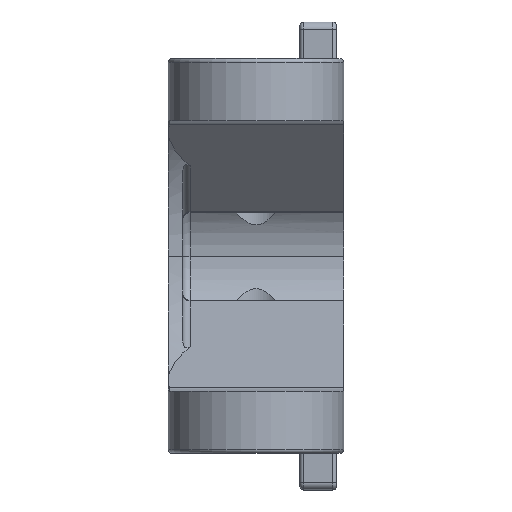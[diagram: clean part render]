
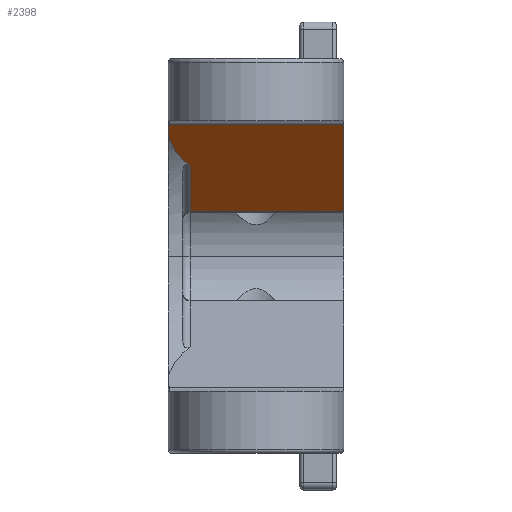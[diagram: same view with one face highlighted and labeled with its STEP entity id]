
A CAD part, top view. The second image highlights one B-rep face of the part: STEP entity #2398.
In plain terms, the highlighted planar face has unit normal (0, -0.906, 0.423).
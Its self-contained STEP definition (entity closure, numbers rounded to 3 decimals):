
#1235=CARTESIAN_POINT('Vertex',(21.,17.938,43.601)) ;
#1238=CARTESIAN_POINT('Line Origine',(21.,12.016,30.901)) ;
#1242=CARTESIAN_POINT('Vertex',(21.,6.094,18.201)) ;
#1852=CARTESIAN_POINT('Vertex',(-3.,17.,41.59)) ;
#2296=CARTESIAN_POINT('Line Origine',(8.958,17.938,43.601)) ;
#2300=CARTESIAN_POINT('Vertex',(-2.869,17.938,43.601)) ;
#2341=CARTESIAN_POINT('Axis2P3D Location',(0.,17.,41.59)) ;
#2347=CARTESIAN_POINT('Control Point',(-3.,17.,41.59)) ;
#2348=CARTESIAN_POINT('Control Point',(-3.,17.187,41.991)) ;
#2349=CARTESIAN_POINT('Control Point',(-2.987,17.375,42.393)) ;
#2350=CARTESIAN_POINT('Control Point',(-2.961,17.562,42.796)) ;
#2351=CARTESIAN_POINT('Control Point',(-2.921,17.75,43.198)) ;
#2352=CARTESIAN_POINT('Control Point',(-2.869,17.938,43.601)) ;
#2355=CARTESIAN_POINT('Control Point',(-1.,13.243,33.533)) ;
#2356=CARTESIAN_POINT('Control Point',(-1.607,13.842,34.817)) ;
#2357=CARTESIAN_POINT('Control Point',(-2.108,14.434,36.087)) ;
#2358=CARTESIAN_POINT('Control Point',(-2.492,15.017,37.337)) ;
#2359=CARTESIAN_POINT('Control Point',(-2.832,15.762,38.934)) ;
#2360=CARTESIAN_POINT('Control Point',(-2.969,16.502,40.522)) ;
#2361=CARTESIAN_POINT('Control Point',(-2.99,16.668,40.878)) ;
#2362=CARTESIAN_POINT('Control Point',(-3.,16.834,41.234)) ;
#2363=CARTESIAN_POINT('Control Point',(-3.,17.,41.59)) ;
#2364=CARTESIAN_POINT('Vertex',(-1.,13.243,33.533)) ;
#2368=CARTESIAN_POINT('Control Point',(-1.,13.243,33.533)) ;
#2369=CARTESIAN_POINT('Control Point',(-0.819,13.065,33.151)) ;
#2370=CARTESIAN_POINT('Control Point',(-0.629,12.886,32.766)) ;
#2371=CARTESIAN_POINT('Control Point',(-0.429,12.705,32.379)) ;
#2372=CARTESIAN_POINT('Control Point',(-0.219,12.523,31.989)) ;
#2373=CARTESIAN_POINT('Control Point',(0.,12.341,31.598)) ;
#2374=CARTESIAN_POINT('Vertex',(0.,12.341,31.598)) ;
#2377=CARTESIAN_POINT('Line Origine',(0.,9.217,24.899)) ;
#2381=CARTESIAN_POINT('Vertex',(0.,6.094,18.201)) ;
#2384=CARTESIAN_POINT('Line Origine',(10.5,6.094,18.201)) ;
#1239=DIRECTION('Vector Direction',(0.,-0.423,-0.906)) ;
#2297=DIRECTION('Vector Direction',(1.,0.,0.)) ;
#2342=DIRECTION('Axis2P3D Direction',(0.,-0.906,0.423)) ;
#2343=DIRECTION('Axis2P3D XDirection',(-0.,-0.423,-0.906)) ;
#2378=DIRECTION('Vector Direction',(0.,-0.423,-0.906)) ;
#2385=DIRECTION('Vector Direction',(1.,0.,0.)) ;
#2344=AXIS2_PLACEMENT_3D('Plane Axis2P3D',#2341,#2342,#2343) ;
#2390=ORIENTED_EDGE('',*,*,#2353,.F.) ;
#2391=ORIENTED_EDGE('',*,*,#2366,.F.) ;
#2392=ORIENTED_EDGE('',*,*,#2376,.T.) ;
#2393=ORIENTED_EDGE('',*,*,#2383,.F.) ;
#2394=ORIENTED_EDGE('',*,*,#2388,.T.) ;
#2395=ORIENTED_EDGE('',*,*,#1244,.F.) ;
#2396=ORIENTED_EDGE('',*,*,#2302,.T.) ;
#1240=VECTOR('Line Direction',#1239,1.) ;
#2298=VECTOR('Line Direction',#2297,1.) ;
#2379=VECTOR('Line Direction',#2378,1.) ;
#2386=VECTOR('Line Direction',#2385,1.) ;
#2398=ADVANCED_FACE('sade',(#2397),#2345,.T.) ;
#2346=B_SPLINE_CURVE_WITH_KNOTS('',5,(#2347,#2348,#2349,#2350,#2351,#2352),.UNSPECIFIED.,.F.,.U.,(6,6),(0.,3.146),.UNSPECIFIED.) ;
#2354=B_SPLINE_CURVE_WITH_KNOTS('',5,(#2355,#2356,#2357,#2358,#2359,#2360,#2361,#2362,#2363),.UNSPECIFIED.,.F.,.U.,(6,3,6),(0.,10.099,13.02),.UNSPECIFIED.) ;
#2367=B_SPLINE_CURVE_WITH_KNOTS('',5,(#2368,#2369,#2370,#2371,#2372,#2373),.UNSPECIFIED.,.F.,.U.,(6,6),(0.,3.335),.UNSPECIFIED.) ;
#1244=EDGE_CURVE('',#1236,#1243,#1241,.T.) ;
#2302=EDGE_CURVE('',#1236,#2301,#2299,.F.) ;
#2353=EDGE_CURVE('',#1853,#2301,#2346,.T.) ;
#2366=EDGE_CURVE('',#2365,#1853,#2354,.T.) ;
#2376=EDGE_CURVE('',#2365,#2375,#2367,.T.) ;
#2383=EDGE_CURVE('',#2382,#2375,#2380,.F.) ;
#2388=EDGE_CURVE('',#2382,#1243,#2387,.T.) ;
#2389=EDGE_LOOP('',(#2390,#2391,#2392,#2393,#2394,#2395,#2396)) ;
#2397=FACE_OUTER_BOUND('',#2389,.T.) ;
#1241=LINE('Line',#1238,#1240) ;
#2299=LINE('Line',#2296,#2298) ;
#2380=LINE('Line',#2377,#2379) ;
#2387=LINE('Line',#2384,#2386) ;
#2345=PLANE('',#2344) ;
#1236=VERTEX_POINT('',#1235) ;
#1243=VERTEX_POINT('',#1242) ;
#1853=VERTEX_POINT('',#1852) ;
#2301=VERTEX_POINT('',#2300) ;
#2365=VERTEX_POINT('',#2364) ;
#2375=VERTEX_POINT('',#2374) ;
#2382=VERTEX_POINT('',#2381) ;
